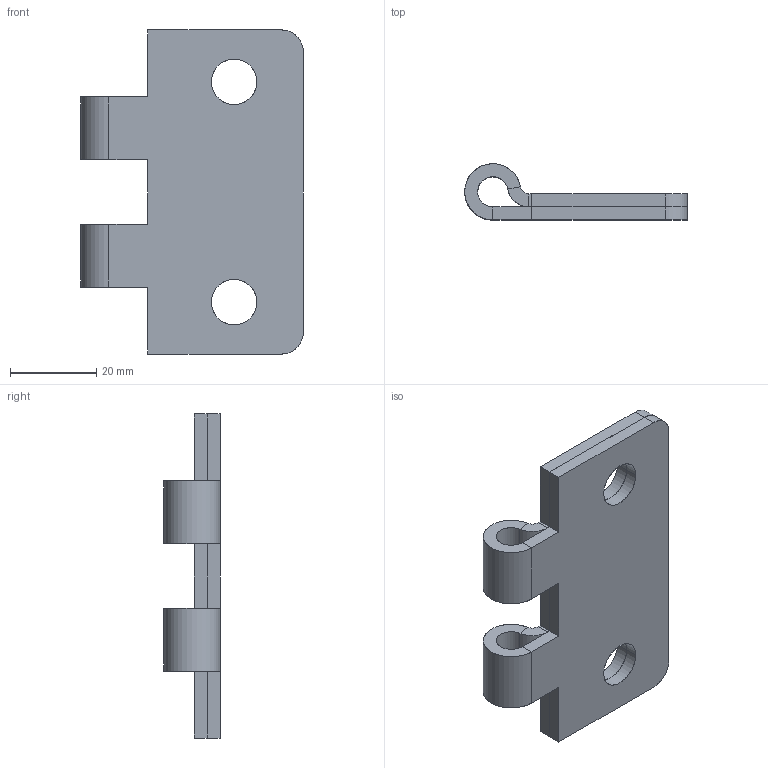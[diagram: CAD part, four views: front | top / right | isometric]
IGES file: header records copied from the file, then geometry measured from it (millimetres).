
Start section: SolidWorks IGES file using analytic representation for surfaces
Global section: file name: Z:\Mes documents\ATAO iges\Gamme CC\CC 409\409.020.00.IGS; native system: SolidWorks 2008; preprocessor: SolidWorks 2008; author: cbrechard; date: 110628.162339; units: millimetre
Bounding box: 51.5 x 13 x 75 mm (x, y, z)
Surface area: 14194.8 mm2 (no closed solid volume)
Topology: 0 solids, 0 shells, 52 faces, 864 edges, 864 vertices
Faces by surface type: bspline 32, revolution 20
